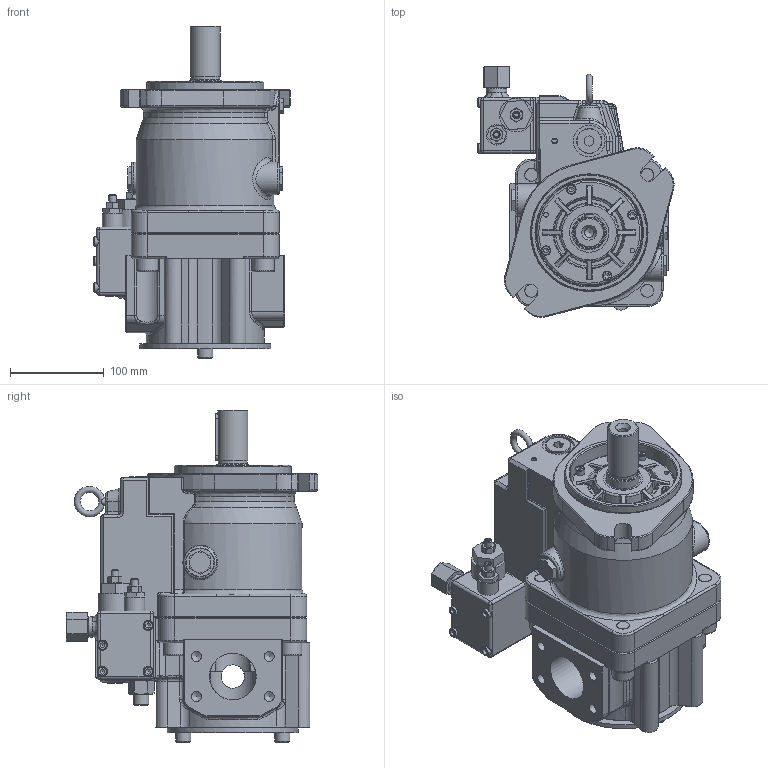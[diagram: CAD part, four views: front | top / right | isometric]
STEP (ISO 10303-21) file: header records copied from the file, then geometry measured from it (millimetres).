
FILE_DESCRIPTION((''),'2;1');
FILE_NAME('I:\3D Step files\K3V\K3VL80B 1NLMM L0.stp','2009-08-19T15:43:17',('mnorman'),(''),'Autodesk Inventor 2010','Autodesk Inventor 2010','');
FILE_SCHEMA(('AUTOMOTIVE_DESIGN { 1 0 10303 214 1 1 1 1 }'));
Length unit declared in the file: millimetre
Products named in the file (1): Part8
Bounding box: 209.73 x 268.73 x 355 mm (x, y, z)
Volume: 6375397.9 mm3; surface area: 439954.2 mm2
Topology: 28 solids, 29 shells, 1400 faces, 3308 edges, 1983 vertices
Faces by surface type: plane 533, bspline 348, cylinder 281, cone 163, torus 67, sphere 8
Full cylindrical faces by diameter (mm): 4 x1, 6 x9, 6.5 x4, 6.6 x4, 8 x3, 10 x10, 11 x6, 12.489 x2, 16 x10, 21 x1, 22 x2, 22.4 x1, 24 x4, 25 x1, 27 x1, 30 x2, 31 x1, 32 x1, 34 x1, 35 x2, 36 x1, 37 x1, 39 x1, 42 x1, 50 x2, 55 x1, 112 x1, 114 x2, 125 x1, 140 x1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
Entity records: 47545 total; most frequent: CARTESIAN_POINT 17888, ORIENTED_EDGE 5904, DIRECTION 5531, EDGE_CURVE 2952, AXIS2_PLACEMENT_3D 2226, VERTEX_POINT 1869, EDGE_LOOP 1687, FACE_OUTER_BOUND 1399
